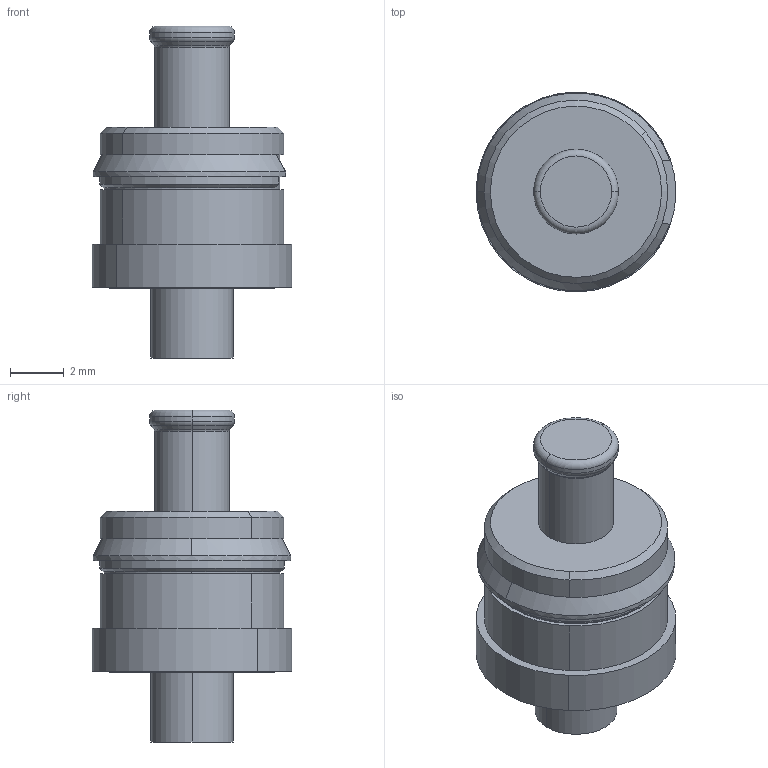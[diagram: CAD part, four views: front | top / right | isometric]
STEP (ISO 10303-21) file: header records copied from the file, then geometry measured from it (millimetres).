
FILE_DESCRIPTION (( 'STEP AP214' ), '1' );
FILE_NAME ('1204-6000.STEP', '2015-05-20T21:20:33', ( 'image' ), ( '' ), 'SwSTEP 2.0', 'SolidWorks 2014', '' );
FILE_SCHEMA (( 'AUTOMOTIVE_DESIGN' ));
Length unit declared in the file: inch
Products named in the file (1): 1204-6000
Bounding box: 7.42 x 7.42 x 12.32 mm (x, y, z)
Volume: 260 mm3; surface area: 306.9 mm2
Topology: 1 solids, 1 shells, 51 faces, 109 edges, 68 vertices
Faces by surface type: cylinder 18, plane 14, cone 13, torus 6
Entity records: 2065 total; most frequent: DIRECTION 275, CARTESIAN_POINT 241, ORIENTED_EDGE 218, AXIS2_PLACEMENT_3D 118, EDGE_CURVE 109, VERTEX_POINT 68, CIRCLE 66, EDGE_LOOP 59
